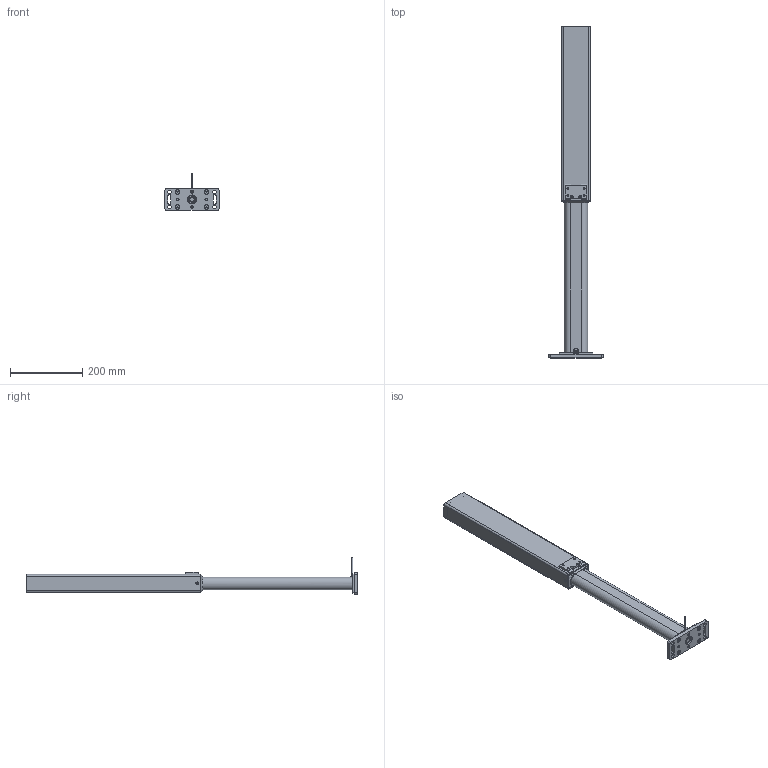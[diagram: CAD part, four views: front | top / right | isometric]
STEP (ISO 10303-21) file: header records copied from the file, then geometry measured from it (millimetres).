
FILE_DESCRIPTION(/* description */ ('Unknown'),/* implementation_level */ '2;1');
FILE_NAME(/* name */ '306.00099 Tischbein TA 1840 ausgefahren',/* time_stamp */ '2018-02-01T12:04:04+01:00',/* author */ ('Unknown'),/* organization */ ('Unknown'),/* preprocessor_version */ 'ST-DEVELOPER v16.7',/* originating_system */ 'DEX',/* authorisation */ $);
FILE_SCHEMA (('AUTOMOTIVE_DESIGN {1 0 10303 214 3 1 1}'));
Length unit declared in the file: millimetre
Products named in the file (20): 306.00099; 142.00068; 109.00148_oa_0; 125.00063; 142.00021; 115.00008_oa_1; 125.00021; 127.00038; 127.00049_oa_2; Aussenprofil TA 1440; 127.00032; 127.00035; Innenprofil TA 1440; Abschlussplatte; 127.00048; Schraube 2,9x6,4; 127.00049_2'403_2'488_Kehlnaht 1_oa_3; 113.00002_70mm; 142.00031; 142.00077
Assembly tree (26 placements, depth 3):
  306.00099
    142.00068
    109.00148_oa_0
      125.00063
      142.00021
      115.00008_oa_1
      125.00021
    127.00038
    127.00049_oa_2
      Aussenprofil TA 1440
      127.00032
      127.00035
      Innenprofil TA 1440
      Abschlussplatte
      127.00048
      Schraube 2,9x6,4  x6
    113.00002_70mm
    142.00031
    142.00077  x4
  127.00049_2'403_2'488_Kehlnaht 1_oa_3
Bounding box: 150 x 920.5 x 101.5 mm (x, y, z)
Volume: 514272.9 mm3; surface area: 465450.4 mm2
Topology: 27 solids, 27 shells, 971 faces, 2291 edges, 1362 vertices
Faces by surface type: cylinder 359, plane 325, bspline 129, cone 73, torus 72, sphere 13
Full cylindrical faces by diameter (mm): 1.8 x2, 2.2 x1, 2.5 x6, 2.9 x6, 2.99 x1, 3.5 x1, 4 x1, 4.1 x1, 4.2 x1, 4.917 x16, 5.8 x8, 6 x4, 6.5 x6, 6.647 x1, 6.917 x2, 7 x4, 8 x2, 8.376 x2, 9 x1, 10 x4, 12.5 x1, 13 x6, 13.5 x1, 14.4 x1, 17.9 x2, 25 x1
Entity records: 23566 total; most frequent: CARTESIAN_POINT 5819, DIRECTION 3221, ORIENTED_EDGE 3122, EDGE_CURVE 1561, AXIS2_PLACEMENT_3D 1278, VERTEX_POINT 1011, FACE_BOUND 944, EDGE_LOOP 942
